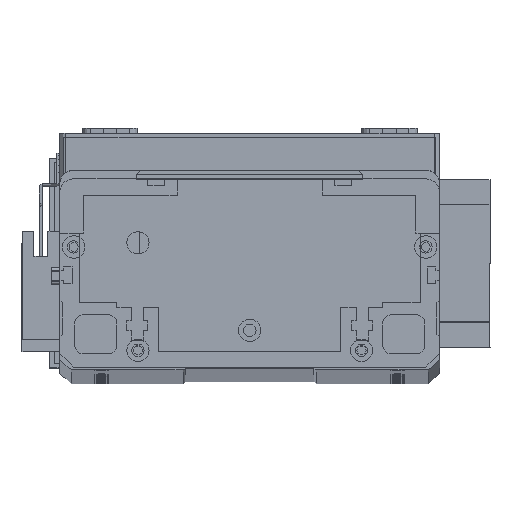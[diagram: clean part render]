
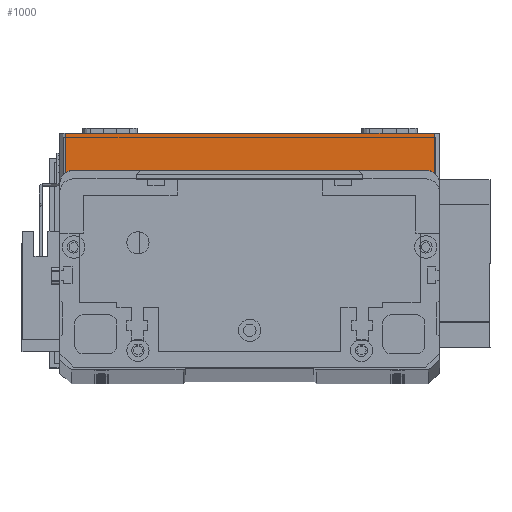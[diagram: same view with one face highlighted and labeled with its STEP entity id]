
A CAD part, top view. The second image highlights one B-rep face of the part: STEP entity #1000.
In plain terms, the highlighted planar face has unit normal (0, 0, 1) as drawn and (0, -1, 0) by its records, which use the part's own axes.
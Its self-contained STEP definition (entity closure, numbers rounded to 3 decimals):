
#142 = VECTOR ( 'NONE', #5460, 1000. ) ;
#475 = DIRECTION ( 'NONE',  ( 1., 0., 0. ) ) ;
#1000 = ADVANCED_FACE ( 'NONE', ( #21461 ), #10788, .F. ) ;
#3987 = EDGE_CURVE ( 'NONE', #7473, #8975, #26131, .T. ) ;
#5378 = ORIENTED_EDGE ( 'NONE', *, *, #16146, .T. ) ;
#5460 = DIRECTION ( 'NONE',  ( 0., 0., 1. ) ) ;
#6218 = CARTESIAN_POINT ( 'NONE',  ( 0., 0., 0. ) ) ;
#7473 = VERTEX_POINT ( 'NONE', #12276 ) ;
#8399 = CARTESIAN_POINT ( 'NONE',  ( 0., 0., 19.5 ) ) ;
#8656 = CARTESIAN_POINT ( 'NONE',  ( 134., 0., 19.5 ) ) ;
#8709 = DIRECTION ( 'NONE',  ( 1., 0., 0. ) ) ;
#8914 = CARTESIAN_POINT ( 'NONE',  ( 2., 0., 19.5 ) ) ;
#8975 = VERTEX_POINT ( 'NONE', #29023 ) ;
#10788 = PLANE ( 'NONE',  #13025 ) ;
#11915 = VECTOR ( 'NONE', #16122, 1000. ) ;
#12276 = CARTESIAN_POINT ( 'NONE',  ( 2., 0., 0. ) ) ;
#12556 = CARTESIAN_POINT ( 'NONE',  ( 134., 0., 19.5 ) ) ;
#13025 = AXIS2_PLACEMENT_3D ( 'NONE', #8399, #13206, #29936 ) ;
#13206 = DIRECTION ( 'NONE',  ( 0., 1., 0. ) ) ;
#14190 = EDGE_LOOP ( 'NONE', ( #19211, #5378, #22619, #23608 ) ) ;
#15206 = LINE ( 'NONE', #26697, #27176 ) ;
#16122 = DIRECTION ( 'NONE',  ( 0., 0., -1. ) ) ;
#16146 = EDGE_CURVE ( 'NONE', #19229, #7473, #19776, .T. ) ;
#19161 = CARTESIAN_POINT ( 'NONE',  ( 2., 0., 19.5 ) ) ;
#19192 = LINE ( 'NONE', #12556, #142 ) ;
#19211 = ORIENTED_EDGE ( 'NONE', *, *, #21802, .F. ) ;
#19229 = VERTEX_POINT ( 'NONE', #19161 ) ;
#19753 = VECTOR ( 'NONE', #8709, 1000. ) ;
#19776 = LINE ( 'NONE', #8914, #11915 ) ;
#21461 = FACE_OUTER_BOUND ( 'NONE', #14190, .T. ) ;
#21802 = EDGE_CURVE ( 'NONE', #19229, #29121, #15206, .T. ) ;
#22619 = ORIENTED_EDGE ( 'NONE', *, *, #3987, .T. ) ;
#23608 = ORIENTED_EDGE ( 'NONE', *, *, #24442, .T. ) ;
#24442 = EDGE_CURVE ( 'NONE', #8975, #29121, #19192, .T. ) ;
#26131 = LINE ( 'NONE', #6218, #19753 ) ;
#26697 = CARTESIAN_POINT ( 'NONE',  ( 0., 0., 19.5 ) ) ;
#27176 = VECTOR ( 'NONE', #475, 1000. ) ;
#29023 = CARTESIAN_POINT ( 'NONE',  ( 134., 0., 0. ) ) ;
#29121 = VERTEX_POINT ( 'NONE', #8656 ) ;
#29936 = DIRECTION ( 'NONE',  ( 0., 0., 1. ) ) ;
